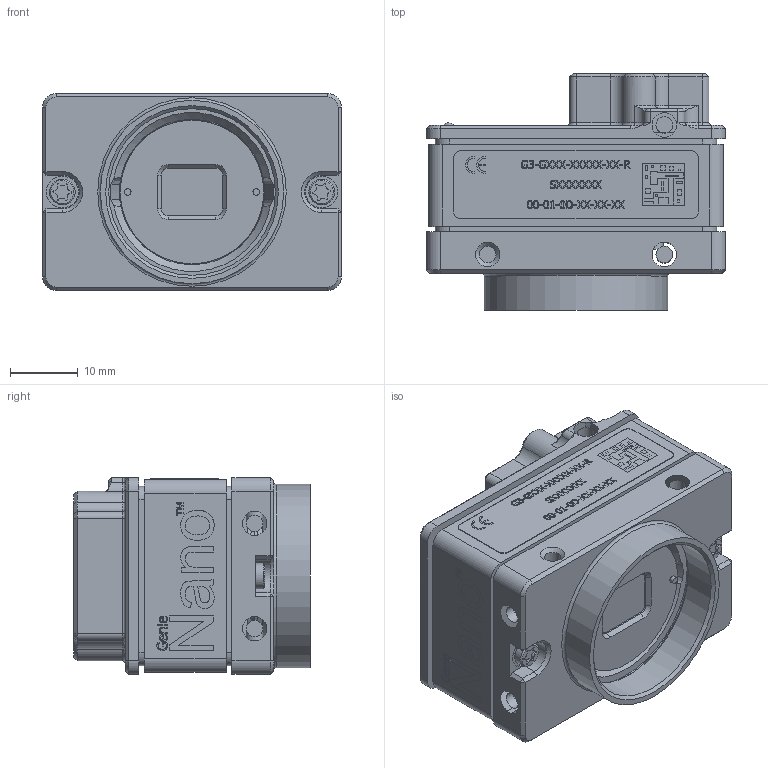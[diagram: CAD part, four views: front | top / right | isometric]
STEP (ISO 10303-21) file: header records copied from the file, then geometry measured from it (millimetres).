
FILE_DESCRIPTION(/* description */ (''),/* implementation_level */ '2;1');
FILE_NAME(/* name */ 'C:\Users\sduhra\Desktop\cad MODELS\NOVA CAMERA ASSEMBLY-SIZE 2 (CS-MOUNT).stp',/* time_stamp */ '2018-07-06T15:10:47-04:00',/* author */ ('sduhra'),/* organization */ (''),/* preprocessor_version */ 'ST-DEVELOPER v17',/* originating_system */ 'Autodesk Inventor 2018',/* authorisation */ '');
FILE_SCHEMA (('AUTOMOTIVE_DESIGN { 1 0 10303 214 3 1 1 }'));
Products named in the file (1): NOVA CAMERA ASSEMBLY-SIZE 2 (CS-MOUNT)
Bounding box: 44 x 34.84 x 29 mm (x, y, z)
Volume: 26665.2 mm3; surface area: 13170.2 mm2
Topology: 1 solids, 1 shells, 2317 faces, 6281 edges, 4063 vertices
Faces by surface type: plane 1459, cylinder 418, bspline 304, cone 90, torus 38, sphere 8
Full cylindrical faces by diameter (mm): 1.2 x2, 1.567 x4, 1.7 x1, 2.459 x9, 3.8 x2, 4.7 x2, 24.536 x1, 25.654 x1, 27 x1
Entity records: 79923 total; most frequent: CARTESIAN_POINT 20983, ORIENTED_EDGE 12548, DIRECTION 10560, EDGE_CURVE 6274, LINE 4454, VECTOR 4454, VERTEX_POINT 4063, AXIS2_PLACEMENT_3D 3053
